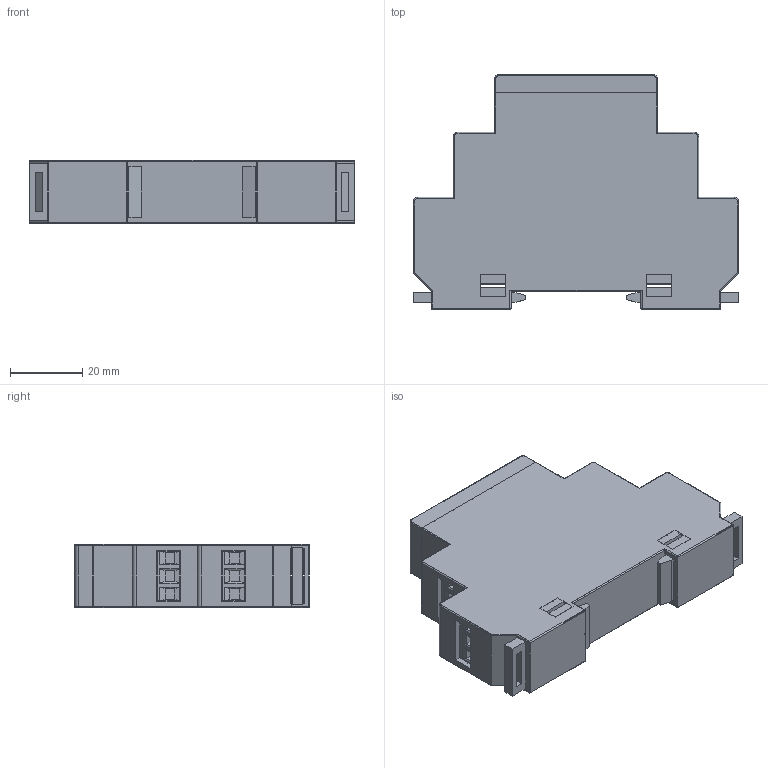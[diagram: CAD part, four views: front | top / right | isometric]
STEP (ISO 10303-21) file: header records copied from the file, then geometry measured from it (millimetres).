
FILE_DESCRIPTION (( 'STEP AP214' ), '1' );
FILE_NAME ('MCR-MA-003-UNI.step', '2014-08-19T12:06:26', ( '' ), ( '' ), 'SwSTEP 2.0', 'SolidWorks 2011', '' );
FILE_SCHEMA (( 'AUTOMOTIVE_DESIGN' ));
Length unit declared in the file: millimetre
Products named in the file (1): MCR-MA-003-UNI
Bounding box: 90 x 65 x 17.6 mm (x, y, z)
Volume: 16931.9 mm3; surface area: 45390.2 mm2
Topology: 8 solids, 8 shells, 1056 faces, 2881 edges, 1834 vertices
Faces by surface type: plane 866, cylinder 134, torus 48, bspline 8
Entity records: 45190 total; most frequent: CARTESIAN_POINT 6536, ORIENTED_EDGE 5746, DIRECTION 5399, EDGE_CURVE 2873, LINE 2277, VECTOR 2277, VERTEX_POINT 1834, AXIS2_PLACEMENT_3D 1561
